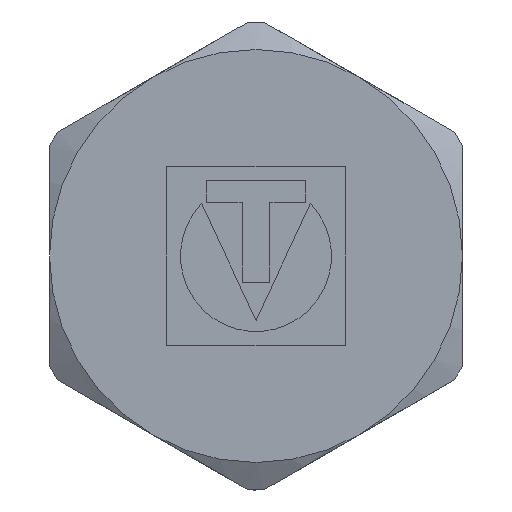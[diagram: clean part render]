
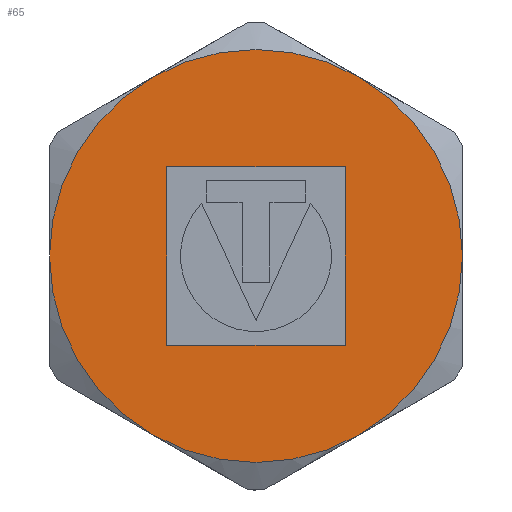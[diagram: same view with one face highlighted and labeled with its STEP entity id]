
A CAD part, front view. The second image highlights one B-rep face of the part: STEP entity #65.
In plain terms, the highlighted planar face has unit normal (0, -1, 0).
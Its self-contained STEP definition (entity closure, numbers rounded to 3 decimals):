
#65=ADVANCED_FACE('',(#242,#244),#246,.F.);
#242=FACE_BOUND('',#243,.T.);
#243=EDGE_LOOP('',(#481,#482,#483));
#244=FACE_BOUND('',#245,.T.);
#245=EDGE_LOOP('',(#484,#485,#486,#487));
#246=PLANE('',#247);
#247=AXIS2_PLACEMENT_3D('',#248,#249,#250);
#248=CARTESIAN_POINT('',(0.,0.,0.));
#249=DIRECTION('',(0.,1.,0.));
#250=DIRECTION('',(-1.,0.,0.));
#481=ORIENTED_EDGE('',*,*,#622,.T.);
#482=ORIENTED_EDGE('',*,*,#621,.T.);
#483=ORIENTED_EDGE('',*,*,#623,.T.);
#484=ORIENTED_EDGE('',*,*,#624,.F.);
#485=ORIENTED_EDGE('',*,*,#625,.F.);
#486=ORIENTED_EDGE('',*,*,#626,.F.);
#487=ORIENTED_EDGE('',*,*,#627,.F.);
#621=EDGE_CURVE('',#710,#744,#747,.F.);
#622=EDGE_CURVE('',#730,#710,#748,.F.);
#623=EDGE_CURVE('',#744,#730,#749,.F.);
#624=EDGE_CURVE('',#750,#751,#752,.F.);
#625=EDGE_CURVE('',#753,#750,#754,.F.);
#626=EDGE_CURVE('',#755,#753,#756,.F.);
#627=EDGE_CURVE('',#751,#755,#757,.F.);
#710=VERTEX_POINT('',#921);
#730=VERTEX_POINT('',#1101);
#744=VERTEX_POINT('',#1230);
#747=CIRCLE('',#1285,15.);
#748=CIRCLE('',#1289,15.);
#749=CIRCLE('',#1293,15.);
#750=VERTEX_POINT('',#1297);
#751=VERTEX_POINT('',#1298);
#752=LINE('',#1299,#1300);
#753=VERTEX_POINT('',#1302);
#754=LINE('',#1303,#1304);
#755=VERTEX_POINT('',#1306);
#756=LINE('',#1307,#1308);
#757=LINE('',#1310,#1311);
#921=CARTESIAN_POINT('',(-15.,0.,0.));
#1101=CARTESIAN_POINT('',(15.,0.,0.));
#1230=CARTESIAN_POINT('',(-7.5,0.,-12.99));
#1285=AXIS2_PLACEMENT_3D('',#1286,#1287,#1288);
#1286=CARTESIAN_POINT('',(0.,0.,0.));
#1287=DIRECTION('',(0.,1.,0.));
#1288=DIRECTION('',(-0.5,0.,-0.866));
#1289=AXIS2_PLACEMENT_3D('',#1290,#1291,#1292);
#1290=CARTESIAN_POINT('',(0.,0.,0.));
#1291=DIRECTION('',(0.,1.,0.));
#1292=DIRECTION('',(-1.,0.,0.));
#1293=AXIS2_PLACEMENT_3D('',#1294,#1295,#1296);
#1294=CARTESIAN_POINT('',(0.,0.,0.));
#1295=DIRECTION('',(0.,1.,0.));
#1296=DIRECTION('',(1.,0.,0.));
#1297=CARTESIAN_POINT('',(6.498,0.,-6.498));
#1298=CARTESIAN_POINT('',(6.498,0.,6.498));
#1299=CARTESIAN_POINT('',(6.498,0.,6.498));
#1300=VECTOR('',#1301,1.);
#1301=DIRECTION('',(0.,0.,-1.));
#1302=CARTESIAN_POINT('',(-6.498,0.,-6.498));
#1303=CARTESIAN_POINT('',(6.498,0.,-6.498));
#1304=VECTOR('',#1305,1.);
#1305=DIRECTION('',(-1.,0.,0.));
#1306=CARTESIAN_POINT('',(-6.498,0.,6.498));
#1307=CARTESIAN_POINT('',(-6.498,0.,-6.498));
#1308=VECTOR('',#1309,1.);
#1309=DIRECTION('',(0.,0.,1.));
#1310=CARTESIAN_POINT('',(-6.498,0.,6.498));
#1311=VECTOR('',#1312,1.);
#1312=DIRECTION('',(1.,0.,0.));
